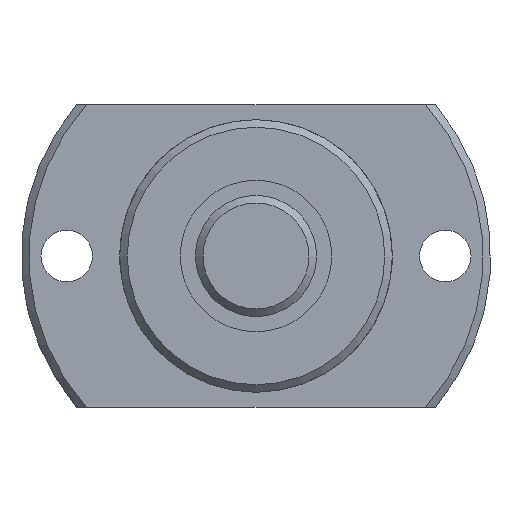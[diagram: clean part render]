
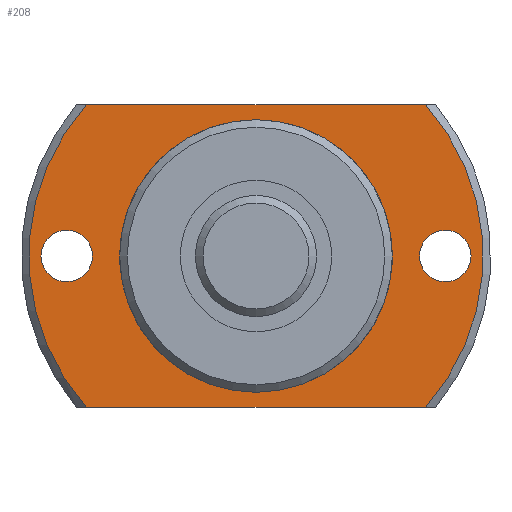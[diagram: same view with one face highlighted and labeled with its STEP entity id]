
A CAD part, left-side view. The second image highlights one B-rep face of the part: STEP entity #208.
In plain terms, the highlighted planar face has unit normal (-1, 0, 0).
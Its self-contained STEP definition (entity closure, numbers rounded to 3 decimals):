
#208 = ADVANCED_FACE( '', ( #439, #440, #441, #442 ), #443, .F. );
#439 = FACE_OUTER_BOUND( '', #703, .T. );
#440 = FACE_BOUND( '', #704, .T. );
#441 = FACE_BOUND( '', #705, .T. );
#442 = FACE_BOUND( '', #706, .T. );
#443 = PLANE( '', #707 );
#703 = EDGE_LOOP( '', ( #1127, #1128, #1129, #1130 ) );
#704 = EDGE_LOOP( '', ( #1131 ) );
#705 = EDGE_LOOP( '', ( #1132 ) );
#706 = EDGE_LOOP( '', ( #1133 ) );
#707 = AXIS2_PLACEMENT_3D( '', #1134, #1135, #1136 );
#1127 = ORIENTED_EDGE( '', *, *, #1494, .F. );
#1128 = ORIENTED_EDGE( '', *, *, #1560, .T. );
#1129 = ORIENTED_EDGE( '', *, *, #1474, .F. );
#1130 = ORIENTED_EDGE( '', *, *, #1561, .T. );
#1131 = ORIENTED_EDGE( '', *, *, #1528, .T. );
#1132 = ORIENTED_EDGE( '', *, *, #1562, .T. );
#1133 = ORIENTED_EDGE( '', *, *, #1485, .T. );
#1134 = CARTESIAN_POINT( '', ( 24., 8.85, 0. ) );
#1135 = DIRECTION( '', ( 1., 0., 0. ) );
#1136 = DIRECTION( '', ( 0., 0., -1. ) );
#1474 = EDGE_CURVE( '', #1737, #1738, #1739, .T. );
#1485 = EDGE_CURVE( '', #1755, #1755, #1756, .T. );
#1494 = EDGE_CURVE( '', #1770, #1771, #1772, .T. );
#1528 = EDGE_CURVE( '', #1825, #1825, #1826, .T. );
#1560 = EDGE_CURVE( '', #1770, #1738, #1866, .T. );
#1561 = EDGE_CURVE( '', #1737, #1771, #1867, .T. );
#1562 = EDGE_CURVE( '', #1868, #1868, #1869, .T. );
#1737 = VERTEX_POINT( '', #2112 );
#1738 = VERTEX_POINT( '', #2113 );
#1739 = CIRCLE( '', #2114, 15. );
#1755 = VERTEX_POINT( '', #2137 );
#1756 = CIRCLE( '', #2138, 8.85 );
#1770 = VERTEX_POINT( '', #2165 );
#1771 = VERTEX_POINT( '', #2166 );
#1772 = CIRCLE( '', #2167, 15. );
#1825 = VERTEX_POINT( '', #2237 );
#1826 = CIRCLE( '', #2238, 1.7 );
#1866 = LINE( '', #2286, #2287 );
#1867 = LINE( '', #2288, #2289 );
#1868 = VERTEX_POINT( '', #2290 );
#1869 = CIRCLE( '', #2291, 1.7 );
#2112 = CARTESIAN_POINT( '', ( 24., -11.18, 10. ) );
#2113 = CARTESIAN_POINT( '', ( 24., -11.18, -10. ) );
#2114 = AXIS2_PLACEMENT_3D( '', #2482, #2483, #2484 );
#2137 = CARTESIAN_POINT( '', ( 24., 0., -8.85 ) );
#2138 = AXIS2_PLACEMENT_3D( '', #2498, #2499, #2500 );
#2165 = CARTESIAN_POINT( '', ( 24., 11.18, -10. ) );
#2166 = CARTESIAN_POINT( '', ( 24., 11.18, 10. ) );
#2167 = AXIS2_PLACEMENT_3D( '', #2512, #2513, #2514 );
#2237 = CARTESIAN_POINT( '', ( 24., 12.5, -1.7 ) );
#2238 = AXIS2_PLACEMENT_3D( '', #2556, #2557, #2558 );
#2286 = CARTESIAN_POINT( '', ( 24., 8.85, -10. ) );
#2287 = VECTOR( '', #2603, 1000. );
#2288 = CARTESIAN_POINT( '', ( 24., 8.85, 10. ) );
#2289 = VECTOR( '', #2604, 1000. );
#2290 = CARTESIAN_POINT( '', ( 24., -12.5, -1.7 ) );
#2291 = AXIS2_PLACEMENT_3D( '', #2605, #2606, #2607 );
#2482 = CARTESIAN_POINT( '', ( 24., 0., 0. ) );
#2483 = DIRECTION( '', ( 1., 0., 0. ) );
#2484 = DIRECTION( '', ( 0., 0., -1. ) );
#2498 = CARTESIAN_POINT( '', ( 24., 0., 0. ) );
#2499 = DIRECTION( '', ( 1., 0., 0. ) );
#2500 = DIRECTION( '', ( 0., 0., -1. ) );
#2512 = CARTESIAN_POINT( '', ( 24., 0., 0. ) );
#2513 = DIRECTION( '', ( 1., 0., 0. ) );
#2514 = DIRECTION( '', ( 0., 0., -1. ) );
#2556 = CARTESIAN_POINT( '', ( 24., 12.5, 0. ) );
#2557 = DIRECTION( '', ( 1., 0., 0. ) );
#2558 = DIRECTION( '', ( 0., 0., -1. ) );
#2603 = DIRECTION( '', ( 0., -1., 0. ) );
#2604 = DIRECTION( '', ( 0., 1., 0. ) );
#2605 = CARTESIAN_POINT( '', ( 24., -12.5, 0. ) );
#2606 = DIRECTION( '', ( 1., 0., 0. ) );
#2607 = DIRECTION( '', ( 0., 0., -1. ) );
